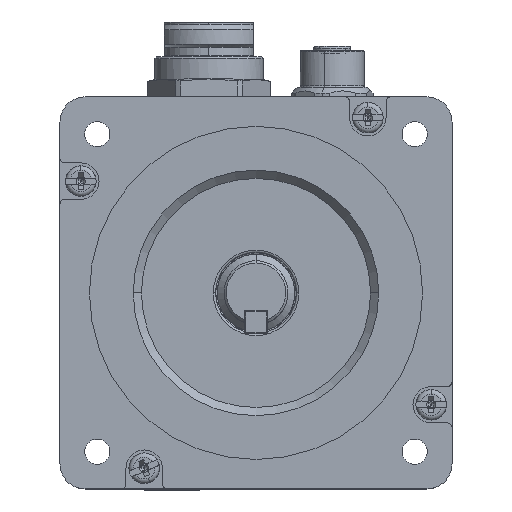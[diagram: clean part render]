
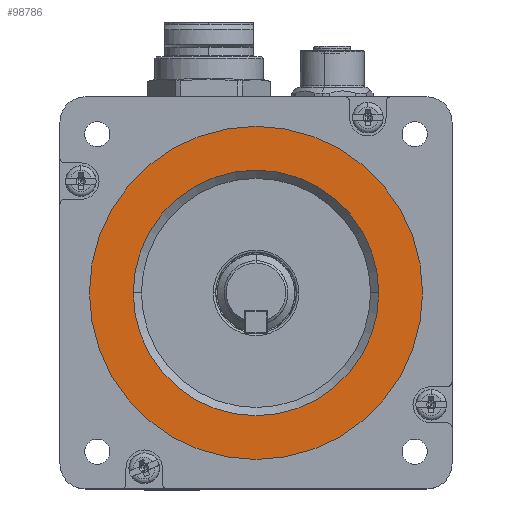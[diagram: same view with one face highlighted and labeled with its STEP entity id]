
A CAD part, top view. The second image highlights one B-rep face of the part: STEP entity #98786.
In plain terms, the highlighted planar face has unit normal (0, 0, 1).
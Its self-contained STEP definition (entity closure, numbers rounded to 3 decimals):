
#1195 = CARTESIAN_POINT ( 'NONE',  ( 79.8, 43.354, 219.616 ) ) ;
#4094 = ORIENTED_EDGE ( 'NONE', *, *, #19071, .T. ) ;
#7244 = DIRECTION ( 'NONE',  ( 0., 0., 1. ) ) ;
#9069 = AXIS2_PLACEMENT_3D ( 'NONE', #90603, #75423, #53037 ) ;
#10615 = DIRECTION ( 'NONE',  ( 1., 0., 0. ) ) ;
#11483 = CARTESIAN_POINT ( 'NONE',  ( 6.8, 43.354, 219.616 ) ) ;
#14043 = CARTESIAN_POINT ( 'NONE',  ( 16.4, 43.354, 219.616 ) ) ;
#16266 = DIRECTION ( 'NONE',  ( 0., 0., -1. ) ) ;
#18132 = CARTESIAN_POINT ( 'NONE',  ( 70.2, 43.354, 219.616 ) ) ;
#19071 = EDGE_CURVE ( 'NONE', #64509, #20460, #21950, .T. ) ;
#19863 = AXIS2_PLACEMENT_3D ( 'NONE', #98431, #37639, #68024 ) ;
#20460 = VERTEX_POINT ( 'NONE', #14043 ) ;
#21441 = CIRCLE ( 'NONE', #53811, 36.5 ) ;
#21950 = CIRCLE ( 'NONE', #83471, 26.9 ) ;
#25408 = EDGE_LOOP ( 'NONE', ( #34512, #62840 ) ) ;
#30661 = VERTEX_POINT ( 'NONE', #11483 ) ;
#34512 = ORIENTED_EDGE ( 'NONE', *, *, #54892, .T. ) ;
#37639 = DIRECTION ( 'NONE',  ( 0., 0., 1. ) ) ;
#38270 = CARTESIAN_POINT ( 'NONE',  ( 43.3, 43.354, 219.616 ) ) ;
#43618 = FACE_BOUND ( 'NONE', #87971, .T. ) ;
#46859 = ORIENTED_EDGE ( 'NONE', *, *, #99865, .T. ) ;
#53037 = DIRECTION ( 'NONE',  ( 1., 0., 0. ) ) ;
#53811 = AXIS2_PLACEMENT_3D ( 'NONE', #38270, #7244, #76258 ) ;
#54321 = CIRCLE ( 'NONE', #9069, 26.9 ) ;
#54892 = EDGE_CURVE ( 'NONE', #88527, #30661, #84635, .T. ) ;
#62840 = ORIENTED_EDGE ( 'NONE', *, *, #84698, .T. ) ;
#64509 = VERTEX_POINT ( 'NONE', #18132 ) ;
#66456 = CARTESIAN_POINT ( 'NONE',  ( 5.85, 5.904, 219.616 ) ) ;
#67465 = DIRECTION ( 'NONE',  ( 0., 0., 1. ) ) ;
#68024 = DIRECTION ( 'NONE',  ( 1., 0., 0. ) ) ;
#75423 = DIRECTION ( 'NONE',  ( 0., 0., -1. ) ) ;
#76258 = DIRECTION ( 'NONE',  ( 1., 0., 0. ) ) ;
#80101 = CARTESIAN_POINT ( 'NONE',  ( 43.3, 43.354, 219.616 ) ) ;
#82164 = PLANE ( 'NONE',  #89754 ) ;
#83471 = AXIS2_PLACEMENT_3D ( 'NONE', #80101, #16266, #10615 ) ;
#84635 = CIRCLE ( 'NONE', #19863, 36.5 ) ;
#84698 = EDGE_CURVE ( 'NONE', #30661, #88527, #21441, .T. ) ;
#87971 = EDGE_LOOP ( 'NONE', ( #4094, #46859 ) ) ;
#88527 = VERTEX_POINT ( 'NONE', #1195 ) ;
#88765 = DIRECTION ( 'NONE',  ( 1., 0., 0. ) ) ;
#89754 = AXIS2_PLACEMENT_3D ( 'NONE', #66456, #67465, #88765 ) ;
#90603 = CARTESIAN_POINT ( 'NONE',  ( 43.3, 43.354, 219.616 ) ) ;
#98363 = FACE_OUTER_BOUND ( 'NONE', #25408, .T. ) ;
#98431 = CARTESIAN_POINT ( 'NONE',  ( 43.3, 43.354, 219.616 ) ) ;
#98786 = ADVANCED_FACE ( 'NONE', ( #43618, #98363 ), #82164, .T. ) ;
#99865 = EDGE_CURVE ( 'NONE', #20460, #64509, #54321, .T. ) ;
